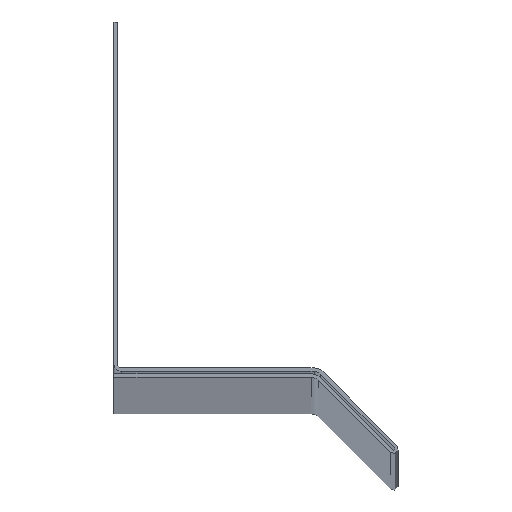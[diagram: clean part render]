
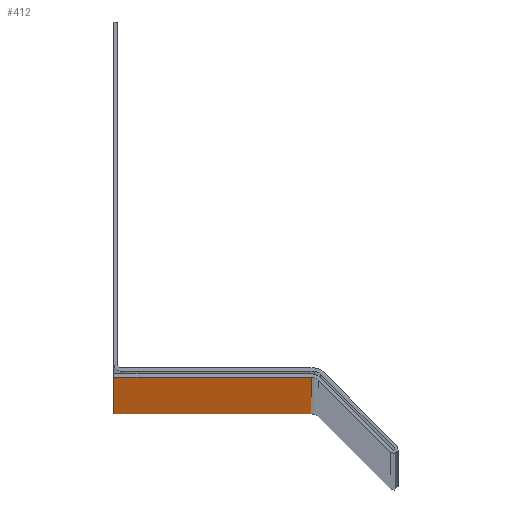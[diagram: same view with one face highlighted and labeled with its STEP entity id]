
A CAD part, top view. The second image highlights one B-rep face of the part: STEP entity #412.
In plain terms, the highlighted planar face has unit normal (0, -1, 0).
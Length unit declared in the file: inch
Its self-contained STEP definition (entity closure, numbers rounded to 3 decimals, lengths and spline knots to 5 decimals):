
#19=PLANE('',#462);
#36=FACE_OUTER_BOUND('',#58,.T.);
#58=EDGE_LOOP('',(#305,#306,#307,#308));
#88=LINE('',#654,#132);
#89=LINE('',#657,#133);
#90=LINE('',#659,#134);
#91=LINE('',#660,#135);
#132=VECTOR('',#530,0.3937);
#133=VECTOR('',#533,0.3937);
#134=VECTOR('',#534,0.3937);
#135=VECTOR('',#535,0.3937);
#191=VERTEX_POINT('',#650);
#192=VERTEX_POINT('',#652);
#193=VERTEX_POINT('',#656);
#194=VERTEX_POINT('',#658);
#238=EDGE_CURVE('',#191,#192,#88,.T.);
#239=EDGE_CURVE('',#191,#193,#89,.T.);
#240=EDGE_CURVE('',#194,#192,#90,.T.);
#241=EDGE_CURVE('',#193,#194,#91,.T.);
#305=ORIENTED_EDGE('',*,*,#239,.F.);
#306=ORIENTED_EDGE('',*,*,#238,.T.);
#307=ORIENTED_EDGE('',*,*,#240,.F.);
#308=ORIENTED_EDGE('',*,*,#241,.F.);
#412=ADVANCED_FACE('',(#36),#19,.T.);
#462=AXIS2_PLACEMENT_3D('',#655,#531,#532);
#530=DIRECTION('',(0.,0.,-1.));
#531=DIRECTION('center_axis',(0.,-1.,0.));
#532=DIRECTION('ref_axis',(-1.,0.,0.));
#533=DIRECTION('',(1.,0.,0.));
#534=DIRECTION('',(-1.,0.,0.));
#535=DIRECTION('',(0.,0.,-1.));
#650=CARTESIAN_POINT('',(-0.57728,-1.24776,0.));
#652=CARTESIAN_POINT('',(-0.57728,-1.24776,-120.));
#654=CARTESIAN_POINT('',(-0.57728,-1.24776,0.));
#655=CARTESIAN_POINT('Origin',(0.55314,-1.24776,0.));
#656=CARTESIAN_POINT('',(0.55314,-1.24776,0.));
#657=CARTESIAN_POINT('',(-0.57728,-1.24776,0.));
#658=CARTESIAN_POINT('',(0.55314,-1.24776,-120.));
#659=CARTESIAN_POINT('',(-0.57728,-1.24776,-120.));
#660=CARTESIAN_POINT('',(0.55314,-1.24776,0.));
